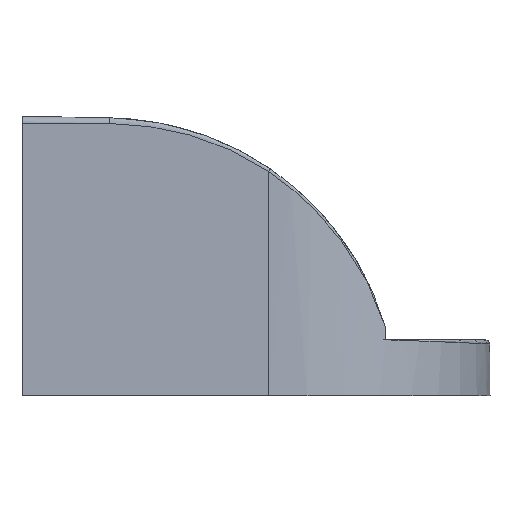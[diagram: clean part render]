
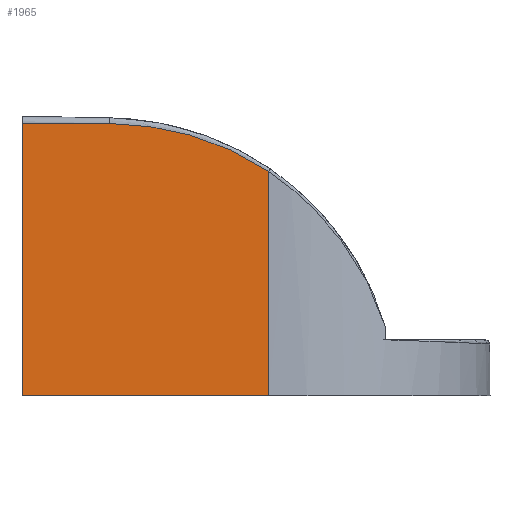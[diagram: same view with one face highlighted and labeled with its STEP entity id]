
A CAD part, left-side view. The second image highlights one B-rep face of the part: STEP entity #1965.
In plain terms, the highlighted planar face has unit normal (-1, -0.009, 0).
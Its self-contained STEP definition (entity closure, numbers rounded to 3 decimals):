
#46 = LINE ( 'NONE', #97, #1404 ) ;
#56 = CARTESIAN_POINT ( 'NONE',  ( -16.019, 2.081, 17.349 ) ) ;
#83 = EDGE_CURVE ( 'NONE', #1208, #1439, #1588, .T. ) ;
#96 = VERTEX_POINT ( 'NONE', #457 ) ;
#97 = CARTESIAN_POINT ( 'NONE',  ( -15.999, -0.14, 20. ) ) ;
#183 = CARTESIAN_POINT ( 'NONE',  ( -16.099, 11.219, 19.485 ) ) ;
#211 = ORIENTED_EDGE ( 'NONE', *, *, #699, .T. ) ;
#237 = CARTESIAN_POINT ( 'NONE',  ( -16.065, 7.359, 19.1 ) ) ;
#240 = CARTESIAN_POINT ( 'NONE',  ( -16.009, 0.908, 16.729 ) ) ;
#268 = DIRECTION ( 'NONE',  ( 0., 0., -1. ) ) ;
#339 = EDGE_CURVE ( 'NONE', #96, #1946, #394, .T. ) ;
#360 = EDGE_CURVE ( 'NONE', #1909, #1208, #1191, .T. ) ;
#394 = B_SPLINE_CURVE_WITH_KNOTS ( 'NONE', 3,
 ( #2107, #774, #240, #581, #56, #2299, #2292, #933, #418, #1144, #1337, #744, #1527, #1546, #1896, #411, #1904, #237, #961, #2271, #1508, #1353, #1735, #2112, #1313 ),
 .UNSPECIFIED., .F., .F.,
 ( 4, 1, 1, 1, 2, 2, 1, 1, 1, 2, 2, 1, 1, 1, 2, 2, 4 ),
 ( 0., 0.125, 0.187, 0.219, 0.234, 0.25, 0.375, 0.437, 0.469, 0.484, 0.5, 0.625, 0.687, 0.719, 0.734, 0.75, 1. ),
 .UNSPECIFIED. ) ;
#411 = CARTESIAN_POINT ( 'NONE',  ( -16.051, 5.775, 18.743 ) ) ;
#418 = CARTESIAN_POINT ( 'NONE',  ( -16.026, 2.935, 17.753 ) ) ;
#434 = CARTESIAN_POINT ( 'NONE',  ( -15.999, -0.14, 0. ) ) ;
#454 = DIRECTION ( 'NONE',  ( 0., 0., -1. ) ) ;
#457 = CARTESIAN_POINT ( 'NONE',  ( -15.999, -0.14, 16.051 ) ) ;
#467 = EDGE_CURVE ( 'NONE', #96, #1439, #46, .T. ) ;
#581 = CARTESIAN_POINT ( 'NONE',  ( -16.015, 1.684, 17.149 ) ) ;
#667 = CARTESIAN_POINT ( 'NONE',  ( -16.099, 11.219, 19.485 ) ) ;
#699 = EDGE_CURVE ( 'NONE', #1946, #1909, #2073, .T. ) ;
#734 = DIRECTION ( 'NONE',  ( 1., 0.009, 0. ) ) ;
#744 = CARTESIAN_POINT ( 'NONE',  ( -16.043, 4.876, 18.475 ) ) ;
#774 = CARTESIAN_POINT ( 'NONE',  ( -16.003, 0.271, 16.332 ) ) ;
#881 = CARTESIAN_POINT ( 'NONE',  ( -16.153, 17.5, 19.5 ) ) ;
#933 = CARTESIAN_POINT ( 'NONE',  ( -16.022, 2.427, 17.516 ) ) ;
#961 = CARTESIAN_POINT ( 'NONE',  ( -16.069, 7.795, 19.175 ) ) ;
#969 = ORIENTED_EDGE ( 'NONE', *, *, #360, .T. ) ;
#1017 = ORIENTED_EDGE ( 'NONE', *, *, #339, .T. ) ;
#1050 = CARTESIAN_POINT ( 'NONE',  ( -16.117, 13.312, 19.522 ) ) ;
#1111 = CARTESIAN_POINT ( 'NONE',  ( -16.153, 17.5, 19.5 ) ) ;
#1144 = CARTESIAN_POINT ( 'NONE',  ( -16.032, 3.625, 18.044 ) ) ;
#1163 = CARTESIAN_POINT ( 'NONE',  ( -16.153, 17.5, 20. ) ) ;
#1191 = LINE ( 'NONE', #1163, #2278 ) ;
#1200 = CARTESIAN_POINT ( 'NONE',  ( -15.999, -0.14, 0. ) ) ;
#1208 = VERTEX_POINT ( 'NONE', #1415 ) ;
#1252 = DIRECTION ( 'NONE',  ( -0.009, 1., 0. ) ) ;
#1280 = CARTESIAN_POINT ( 'NONE',  ( -15.999, -0.14, 20. ) ) ;
#1313 = CARTESIAN_POINT ( 'NONE',  ( -16.099, 11.219, 19.485 ) ) ;
#1337 = CARTESIAN_POINT ( 'NONE',  ( -16.039, 4.455, 18.339 ) ) ;
#1348 = VECTOR ( 'NONE', #1982, 1000. ) ;
#1353 = CARTESIAN_POINT ( 'NONE',  ( -16.072, 8.173, 19.235 ) ) ;
#1381 = FACE_OUTER_BOUND ( 'NONE', #2130, .T. ) ;
#1404 = VECTOR ( 'NONE', #454, 1000. ) ;
#1415 = CARTESIAN_POINT ( 'NONE',  ( -16.153, 17.5, 0. ) ) ;
#1436 = CARTESIAN_POINT ( 'NONE',  ( -16.135, 15.407, 19.464 ) ) ;
#1439 = VERTEX_POINT ( 'NONE', #434 ) ;
#1508 = CARTESIAN_POINT ( 'NONE',  ( -16.071, 8.108, 19.225 ) ) ;
#1527 = CARTESIAN_POINT ( 'NONE',  ( -16.045, 5.058, 18.531 ) ) ;
#1546 = CARTESIAN_POINT ( 'NONE',  ( -16.046, 5.179, 18.568 ) ) ;
#1588 = LINE ( 'NONE', #1200, #1348 ) ;
#1623 = ORIENTED_EDGE ( 'NONE', *, *, #83, .T. ) ;
#1735 = CARTESIAN_POINT ( 'NONE',  ( -16.081, 9.211, 19.387 ) ) ;
#1884 = PLANE ( 'NONE',  #2136 ) ;
#1896 = CARTESIAN_POINT ( 'NONE',  ( -16.046, 5.242, 18.587 ) ) ;
#1904 = CARTESIAN_POINT ( 'NONE',  ( -16.057, 6.497, 18.928 ) ) ;
#1909 = VERTEX_POINT ( 'NONE', #881 ) ;
#1946 = VERTEX_POINT ( 'NONE', #183 ) ;
#1965 = ADVANCED_FACE ( 'NONE', ( #1381 ), #1884, .F. ) ;
#1982 = DIRECTION ( 'NONE',  ( 0.009, -1., 0. ) ) ;
#2073 = B_SPLINE_CURVE_WITH_KNOTS ( 'NONE', 3,
 ( #667, #1050, #1436, #1111 ),
 .UNSPECIFIED., .F., .F.,
 ( 4, 4 ),
 ( -0.013, -0.006 ),
 .UNSPECIFIED. ) ;
#2107 = CARTESIAN_POINT ( 'NONE',  ( -15.999, -0.14, 16.051 ) ) ;
#2112 = CARTESIAN_POINT ( 'NONE',  ( -16.09, 10.206, 19.468 ) ) ;
#2130 = EDGE_LOOP ( 'NONE', ( #1017, #211, #969, #1623, #2345 ) ) ;
#2136 = AXIS2_PLACEMENT_3D ( 'NONE', #1280, #734, #1252 ) ;
#2271 = CARTESIAN_POINT ( 'NONE',  ( -16.07, 7.983, 19.205 ) ) ;
#2278 = VECTOR ( 'NONE', #268, 1000. ) ;
#2292 = CARTESIAN_POINT ( 'NONE',  ( -16.021, 2.368, 17.488 ) ) ;
#2299 = CARTESIAN_POINT ( 'NONE',  ( -16.02, 2.253, 17.433 ) ) ;
#2345 = ORIENTED_EDGE ( 'NONE', *, *, #467, .F. ) ;
